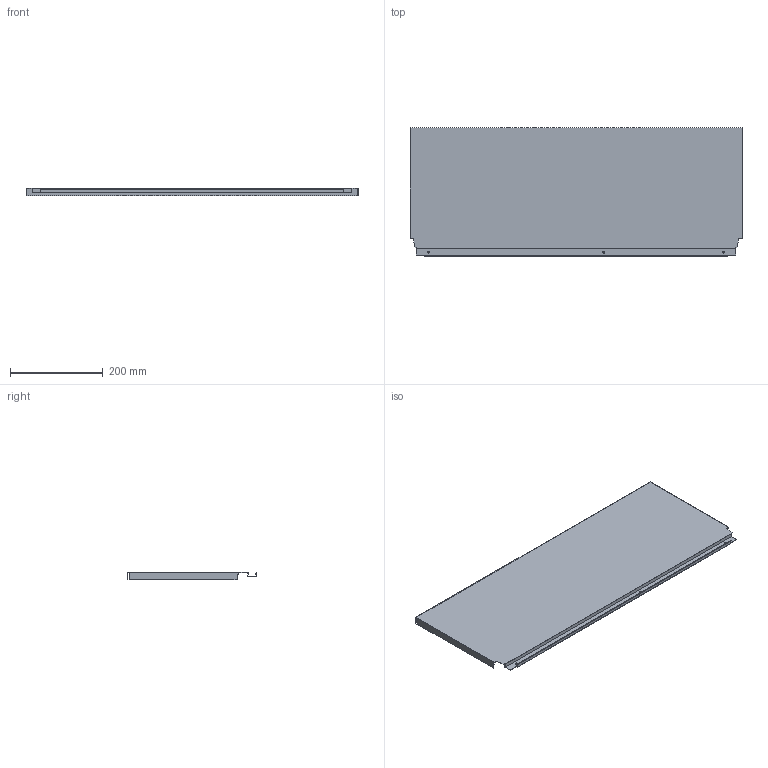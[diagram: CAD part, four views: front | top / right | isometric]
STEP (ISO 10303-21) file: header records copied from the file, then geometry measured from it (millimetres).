
FILE_DESCRIPTION (( 'STEP AP214' ), '1' );
FILE_NAME ('_DWD_XP Stahlrückwand_H278_KAB800_S16.step', '2010-07-08T13:03:49', ( 'grass' ), ( '' ), 'SwSTEP 2.0', 'SolidWorks 2010', '' );
FILE_SCHEMA (( 'AUTOMOTIVE_DESIGN' ));
Length unit declared in the file: millimetre
Products named in the file (1): _DWD_XP Stahlrückwand_H278_KAB800_S16
Bounding box: 717 x 278.57 x 16 mm (x, y, z)
Volume: 199613.2 mm3; surface area: 455490.9 mm2
Topology: 1 solids, 1 shells, 46 faces, 132 edges, 88 vertices
Faces by surface type: plane 40, cylinder 6
Entity records: 1534 total; most frequent: CARTESIAN_POINT 267, ORIENTED_EDGE 264, DIRECTION 238, EDGE_CURVE 132, LINE 120, VECTOR 120, VERTEX_POINT 88, AXIS2_PLACEMENT_3D 59
